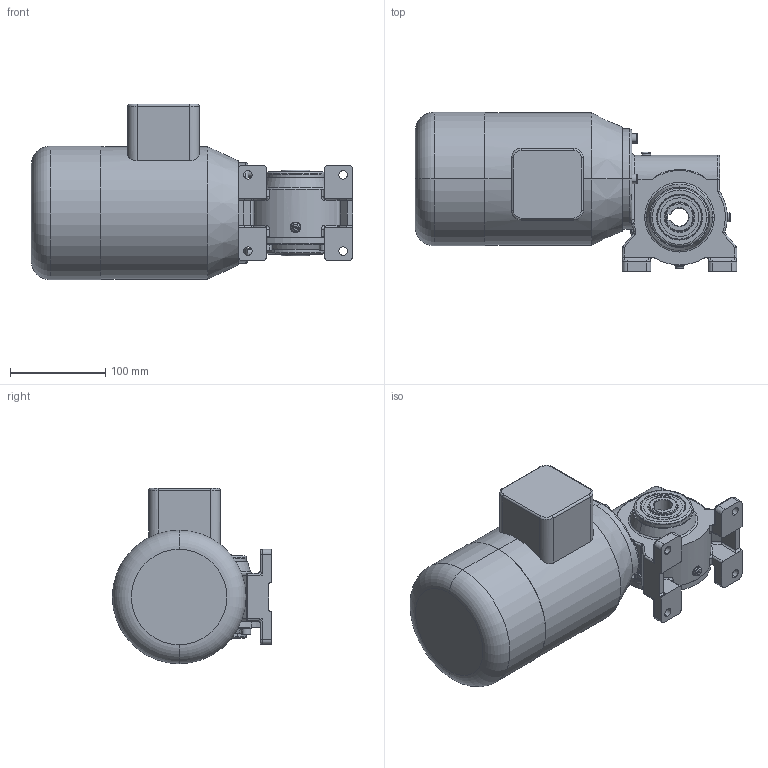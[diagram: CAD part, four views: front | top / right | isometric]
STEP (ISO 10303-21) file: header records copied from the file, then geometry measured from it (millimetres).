
FILE_DESCRIPTION (( 'STEP AP214' ), '1' );
FILE_NAME ('SN9SHH_370W_Drehstrom-Motor_C.STEP', '2021-05-10T10:41:36', ( '' ), ( '' ), 'SwSTEP 2.0', 'SolidWorks 2019', '' );
FILE_SCHEMA (( 'AUTOMOTIVE_DESIGN' ));
Length unit declared in the file: millimetre
Products named in the file (1): SN9SHH_370W_Drehstrom-Motor_C
Bounding box: 337 x 167 x 184 mm (x, y, z)
Surface area: 210861.1 mm2 (no closed solid volume)
Topology: 0 solids, 27 shells, 444 faces, 1194 edges, 735 vertices
Faces by surface type: cylinder 157, plane 148, torus 69, cone 47, bspline 21, sphere 2
Entity records: 20437 total; most frequent: CARTESIAN_POINT 4571, DIRECTION 2452, ORIENTED_EDGE 2087, EDGE_CURVE 1167, AXIS2_PLACEMENT_3D 980, VERTEX_POINT 733, CIRCLE 556, EDGE_LOOP 505
